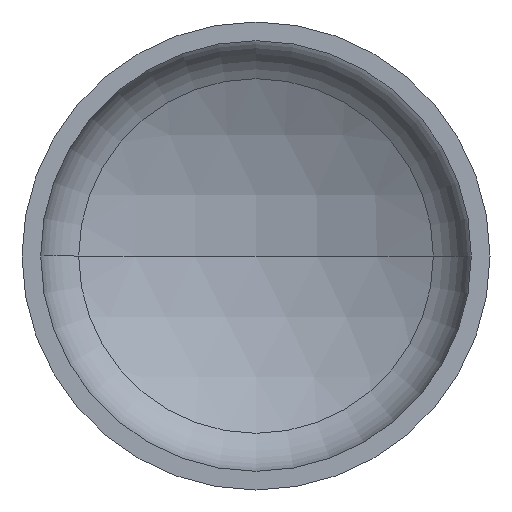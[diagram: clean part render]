
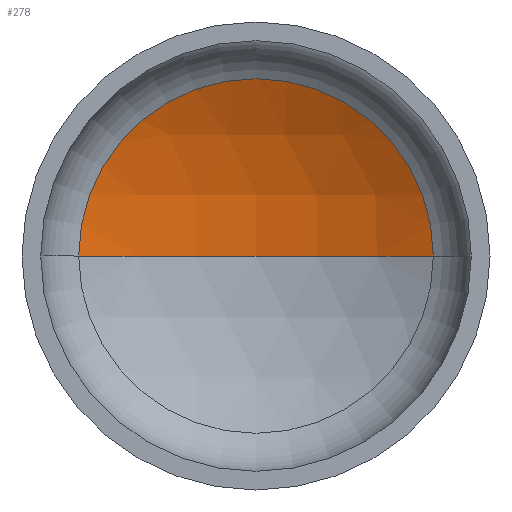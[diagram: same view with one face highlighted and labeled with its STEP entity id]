
A CAD part, front view. The second image highlights one B-rep face of the part: STEP entity #278.
In plain terms, the highlighted spherical face has radius 960 mm.
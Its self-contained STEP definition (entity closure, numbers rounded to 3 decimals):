
#4 = AXIS2_PLACEMENT_3D ( 'NONE', #314, #221, #34 ) ;
#16 = AXIS2_PLACEMENT_3D ( 'NONE', #32, #21, #141 ) ;
#21 = DIRECTION ( 'NONE',  ( 0., 0., -1. ) ) ;
#30 = AXIS2_PLACEMENT_3D ( 'NONE', #208, #199, #197 ) ;
#31 = AXIS2_PLACEMENT_3D ( 'NONE', #301, #299, #290 ) ;
#32 = CARTESIAN_POINT ( 'NONE',  ( 0., -532.595, 0. ) ) ;
#34 = DIRECTION ( 'NONE',  ( 1., 0., 0. ) ) ;
#40 = EDGE_LOOP ( 'NONE', ( #238, #153, #70 ) ) ;
#63 = EDGE_CURVE ( 'NONE', #71, #223, #304, .T. ) ;
#68 = EDGE_CURVE ( 'NONE', #157, #71, #369, .T. ) ;
#70 = ORIENTED_EDGE ( 'NONE', *, *, #63, .T. ) ;
#71 = VERTEX_POINT ( 'NONE', #306 ) ;
#85 = CIRCLE ( 'NONE', #4, 960. ) ;
#141 = DIRECTION ( 'NONE',  ( -1., 0., 0. ) ) ;
#153 = ORIENTED_EDGE ( 'NONE', *, *, #68, .T. ) ;
#157 = VERTEX_POINT ( 'NONE', #268 ) ;
#197 = DIRECTION ( 'NONE',  ( -1., 0., 0. ) ) ;
#199 = DIRECTION ( 'NONE',  ( 0., 0., -1. ) ) ;
#208 = CARTESIAN_POINT ( 'NONE',  ( 0., -532.595, 0. ) ) ;
#216 = SPHERICAL_SURFACE ( 'NONE', #16, 960. ) ;
#221 = DIRECTION ( 'NONE',  ( 0., 0., 1. ) ) ;
#223 = VERTEX_POINT ( 'NONE', #270 ) ;
#238 = ORIENTED_EDGE ( 'NONE', *, *, #355, .F. ) ;
#268 = CARTESIAN_POINT ( 'NONE',  ( 0., 427.405, 0. ) ) ;
#270 = CARTESIAN_POINT ( 'NONE',  ( -454.606, 312.942, 0. ) ) ;
#278 = ADVANCED_FACE ( 'NONE', ( #410 ), #216, .F. ) ;
#290 = DIRECTION ( 'NONE',  ( 1., 0., 0. ) ) ;
#299 = DIRECTION ( 'NONE',  ( 0., -1., 0. ) ) ;
#301 = CARTESIAN_POINT ( 'NONE',  ( 0., 312.942, 0. ) ) ;
#304 = CIRCLE ( 'NONE', #31, 454.606 ) ;
#306 = CARTESIAN_POINT ( 'NONE',  ( 454.606, 312.942, 0. ) ) ;
#314 = CARTESIAN_POINT ( 'NONE',  ( 0., -532.595, 0. ) ) ;
#355 = EDGE_CURVE ( 'NONE', #157, #223, #85, .T. ) ;
#369 = CIRCLE ( 'NONE', #30, 960. ) ;
#410 = FACE_OUTER_BOUND ( 'NONE', #40, .T. ) ;
